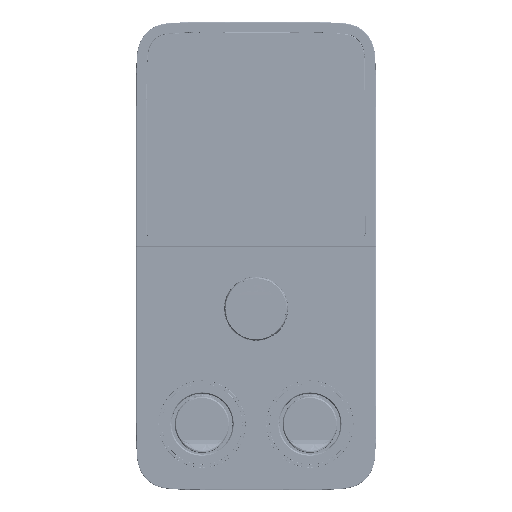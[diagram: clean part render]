
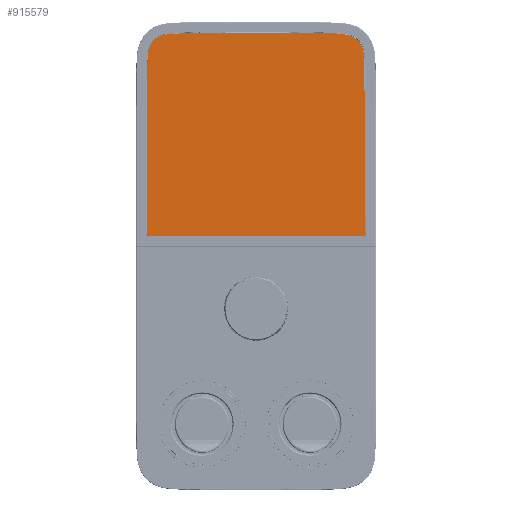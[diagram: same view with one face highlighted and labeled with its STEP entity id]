
A CAD part, top view. The second image highlights one B-rep face of the part: STEP entity #915579.
In plain terms, the highlighted planar face has unit normal (0, 0, 1).
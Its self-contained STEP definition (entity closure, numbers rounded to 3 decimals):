
#914864=DIRECTION('',(0.,-1.,0.));
#914865=VECTOR('',#914864,164.997);
#914866=CARTESIAN_POINT('',(-145.5,120.,153.5));
#914867=LINE('',#914866,#914865);
#914871=CARTESIAN_POINT('',(-35.,223.503,153.5));
#914872=CARTESIAN_POINT('',(-39.178,223.503,153.5));
#914873=CARTESIAN_POINT('',(-47.767,223.502,153.5));
#914874=CARTESIAN_POINT('',(-59.253,223.489,153.5));
#914875=CARTESIAN_POINT('',(-69.991,223.468,153.5));
#914876=CARTESIAN_POINT('',(-79.865,223.416,153.5));
#914877=CARTESIAN_POINT('',(-88.967,223.325,153.5));
#914878=CARTESIAN_POINT('',(-97.323,223.16,153.5));
#914879=CARTESIAN_POINT('',(-104.968,222.887,153.5));
#914880=CARTESIAN_POINT('',(-111.949,222.475,153.5));
#914881=CARTESIAN_POINT('',(-118.205,221.742,153.5));
#914882=CARTESIAN_POINT('',(-123.799,220.592,153.5));
#914883=CARTESIAN_POINT('',(-128.315,219.06,153.5));
#914884=CARTESIAN_POINT('',(-132.723,216.349,153.5));
#914885=CARTESIAN_POINT('',(-136.591,213.016,153.5));
#914886=CARTESIAN_POINT('',(-140.033,208.422,153.5));
#914887=CARTESIAN_POINT('',(-142.344,203.674,153.5));
#914888=CARTESIAN_POINT('',(-143.926,197.791,153.5));
#914889=CARTESIAN_POINT('',(-144.751,190.906,153.5));
#914890=CARTESIAN_POINT('',(-145.186,183.219,153.5));
#914891=CARTESIAN_POINT('',(-145.372,174.756,153.5));
#914892=CARTESIAN_POINT('',(-145.476,165.526,153.5));
#914893=CARTESIAN_POINT('',(-145.489,155.471,153.5));
#914894=CARTESIAN_POINT('',(-145.495,144.586,153.5));
#914895=CARTESIAN_POINT('',(-145.503,132.93,153.5));
#914896=CARTESIAN_POINT('',(-145.5,124.233,153.5));
#914897=CARTESIAN_POINT('',(-145.5,120.,153.5));
#914902=DIRECTION('',(-1.,0.,0.));
#914903=VECTOR('',#914902,70.);
#914904=CARTESIAN_POINT('',(35.,223.503,153.5));
#914905=LINE('',#914904,#914903);
#914909=CARTESIAN_POINT('',(145.5,120.,153.5));
#914910=CARTESIAN_POINT('',(145.5,124.238,153.5));
#914911=CARTESIAN_POINT('',(145.503,132.949,153.5));
#914912=CARTESIAN_POINT('',(145.495,144.601,153.5));
#914913=CARTESIAN_POINT('',(145.489,155.486,153.5));
#914914=CARTESIAN_POINT('',(145.476,165.523,153.5));
#914915=CARTESIAN_POINT('',(145.372,174.742,153.5));
#914916=CARTESIAN_POINT('',(145.187,183.183,153.5));
#914917=CARTESIAN_POINT('',(144.754,190.853,153.5));
#914918=CARTESIAN_POINT('',(143.937,197.725,153.5));
#914919=CARTESIAN_POINT('',(142.369,203.602,153.5));
#914920=CARTESIAN_POINT('',(140.079,208.349,153.5));
#914921=CARTESIAN_POINT('',(136.631,212.977,153.5));
#914922=CARTESIAN_POINT('',(132.725,216.35,153.5));
#914923=CARTESIAN_POINT('',(128.323,219.055,153.5));
#914924=CARTESIAN_POINT('',(123.802,220.592,153.5));
#914925=CARTESIAN_POINT('',(118.203,221.742,153.5));
#914926=CARTESIAN_POINT('',(111.941,222.476,153.5));
#914927=CARTESIAN_POINT('',(104.954,222.888,153.5));
#914928=CARTESIAN_POINT('',(97.307,223.16,153.5));
#914929=CARTESIAN_POINT('',(88.95,223.325,153.5));
#914930=CARTESIAN_POINT('',(79.851,223.416,153.5));
#914931=CARTESIAN_POINT('',(69.979,223.468,153.5));
#914932=CARTESIAN_POINT('',(59.242,223.489,153.5));
#914933=CARTESIAN_POINT('',(47.757,223.502,153.5));
#914934=CARTESIAN_POINT('',(39.175,223.503,153.5));
#914935=CARTESIAN_POINT('',(35.,223.503,153.5));
#914940=DIRECTION('',(0.,1.,0.));
#914941=VECTOR('',#914940,164.997);
#914942=CARTESIAN_POINT('',(145.5,-44.997,
153.5));
#914943=LINE('',#914942,#914941);
#914947=CARTESIAN_POINT('',(143.001,-44.997,153.5));
#914948=DIRECTION('',(0.,0.,1.));
#914949=DIRECTION('',(0.,-1.,0.));
#914950=AXIS2_PLACEMENT_3D('',#914947,#914948,#914949);
#914955=DIRECTION('',(1.,0.,0.));
#914956=VECTOR('',#914955,286.001);
#914957=CARTESIAN_POINT('',(-143.001,-47.496,
153.5));
#914958=LINE('',#914957,#914956);
#914962=CARTESIAN_POINT('',(-143.001,-44.997,153.5));
#914963=DIRECTION('',(0.,0.,1.));
#914964=DIRECTION('',(-1.,0.,0.));
#914965=AXIS2_PLACEMENT_3D('',#914962,#914963,#914964);
#915496=CARTESIAN_POINT('',(-145.5,120.,153.5));
#915497=CARTESIAN_POINT('',(-145.5,-44.997,
153.5));
#915498=VERTEX_POINT('',#915496);
#915499=VERTEX_POINT('',#915497);
#915504=CARTESIAN_POINT('',(-143.001,-47.496,153.5));
#915505=VERTEX_POINT('',#915504);
#915508=CARTESIAN_POINT('',(143.001,-47.496,
153.5));
#915509=VERTEX_POINT('',#915508);
#915512=CARTESIAN_POINT('',(145.5,-44.997,153.5));
#915513=VERTEX_POINT('',#915512);
#915516=CARTESIAN_POINT('',(145.5,120.,153.5));
#915517=VERTEX_POINT('',#915516);
#915520=VERTEX_POINT('',#914935);
#915522=CARTESIAN_POINT('',(-35.,223.503,153.5));
#915523=VERTEX_POINT('',#915522);
#915556=CARTESIAN_POINT('',(0.,0.,153.5));
#915557=DIRECTION('',(0.,0.,1.));
#915558=DIRECTION('',(1.,0.,0.));
#915559=AXIS2_PLACEMENT_3D('',#915556,#915557,#915558);
#915560=PLANE('',#915559);
#915562=ORIENTED_EDGE('',*,*,#915561,.F.);
#915564=ORIENTED_EDGE('',*,*,#915563,.F.);
#915566=ORIENTED_EDGE('',*,*,#915565,.F.);
#915568=ORIENTED_EDGE('',*,*,#915567,.F.);
#915570=ORIENTED_EDGE('',*,*,#915569,.F.);
#915572=ORIENTED_EDGE('',*,*,#915571,.F.);
#915574=ORIENTED_EDGE('',*,*,#915573,.F.);
#915576=ORIENTED_EDGE('',*,*,#915575,.F.);
#915577=EDGE_LOOP('',(#915562,#915564,#915566,#915568,#915570,#915572,#915574,
#915576));
#915578=FACE_OUTER_BOUND('',#915577,.F.);
#915579=ADVANCED_FACE('',(#915578),#915560,.T.);
#914898=B_SPLINE_CURVE_WITH_KNOTS('',3,(#914871,#914872,#914873,#914874,#914875,
#914876,#914877,#914878,#914879,#914880,#914881,#914882,#914883,#914884,#914885,
#914886,#914887,#914888,#914889,#914890,#914891,#914892,#914893,#914894,#914895,
#914896,#914897),.UNSPECIFIED.,.F.,.F.,(4,1,1,1,1,1,1,1,1,1,1,1,1,1,1,1,1,1,1,1,
1,1,1,1,4),(0.,0.042,0.083,0.125,0.167,
0.208,0.25,0.292,0.333,0.375,
0.417,0.458,0.5,0.542,0.583,
0.625,0.667,0.708,0.75,0.792,
0.833,0.875,0.917,0.958,1.),
.UNSPECIFIED.);
#914936=B_SPLINE_CURVE_WITH_KNOTS('',3,(#914909,#914910,#914911,#914912,#914913,
#914914,#914915,#914916,#914917,#914918,#914919,#914920,#914921,#914922,#914923,
#914924,#914925,#914926,#914927,#914928,#914929,#914930,#914931,#914932,#914933,
#914934,#914935),.UNSPECIFIED.,.F.,.F.,(4,1,1,1,1,1,1,1,1,1,1,1,1,1,1,1,1,1,1,1,
1,1,1,1,4),(0.,0.042,0.083,0.125,0.167,
0.208,0.25,0.292,0.333,0.375,
0.417,0.458,0.5,0.542,0.583,
0.625,0.667,0.708,0.75,0.792,
0.833,0.875,0.917,0.958,1.),
.UNSPECIFIED.);
#914951=CIRCLE('',#914950,2.499);
#914966=CIRCLE('',#914965,2.499);
#915561=EDGE_CURVE('',#915498,#915499,#914867,.T.);
#915563=EDGE_CURVE('',#915523,#915498,#914898,.T.);
#915565=EDGE_CURVE('',#915520,#915523,#914905,.T.);
#915567=EDGE_CURVE('',#915517,#915520,#914936,.T.);
#915569=EDGE_CURVE('',#915513,#915517,#914943,.T.);
#915571=EDGE_CURVE('',#915509,#915513,#914951,.T.);
#915573=EDGE_CURVE('',#915505,#915509,#914958,.T.);
#915575=EDGE_CURVE('',#915499,#915505,#914966,.T.);
